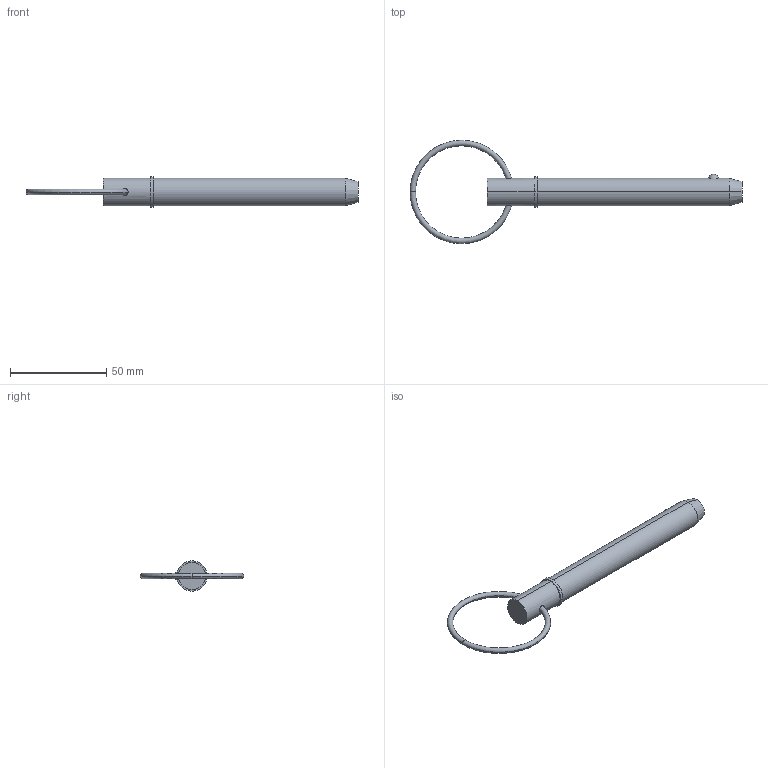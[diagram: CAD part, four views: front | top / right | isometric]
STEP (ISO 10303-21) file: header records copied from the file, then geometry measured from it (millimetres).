
FILE_DESCRIPTION (( 'STEP AP203' ), '1' );
FILE_NAME ('Default.step', '2024-11-04T08:21:44', ( '' ), ( '' ), 'SwSTEP 2.0', 'SolidWorks 2019', '' );
FILE_SCHEMA (( 'CONFIG_CONTROL_DESIGN' ));
Length unit declared in the file: millimetre
Products named in the file (3): Part2; Default; Part1
Assembly tree (2 placements, depth 2):
  Default
    Part1
    Part2
Bounding box: 172.26 x 53.66 x 15.72 mm (x, y, z)
Volume: 21890.6 mm3; surface area: 7812.3 mm2
Topology: 2 solids, 2 shells, 22 faces, 43 edges, 26 vertices
Faces by surface type: torus 8, cylinder 6, plane 4, sphere 2, cone 2
Entity records: 1039 total; most frequent: CARTESIAN_POINT 262, DIRECTION 120, ORIENTED_EDGE 86, AXIS2_PLACEMENT_3D 56, EDGE_CURVE 43, CIRCLE 29, EDGE_LOOP 27, VERTEX_POINT 26
